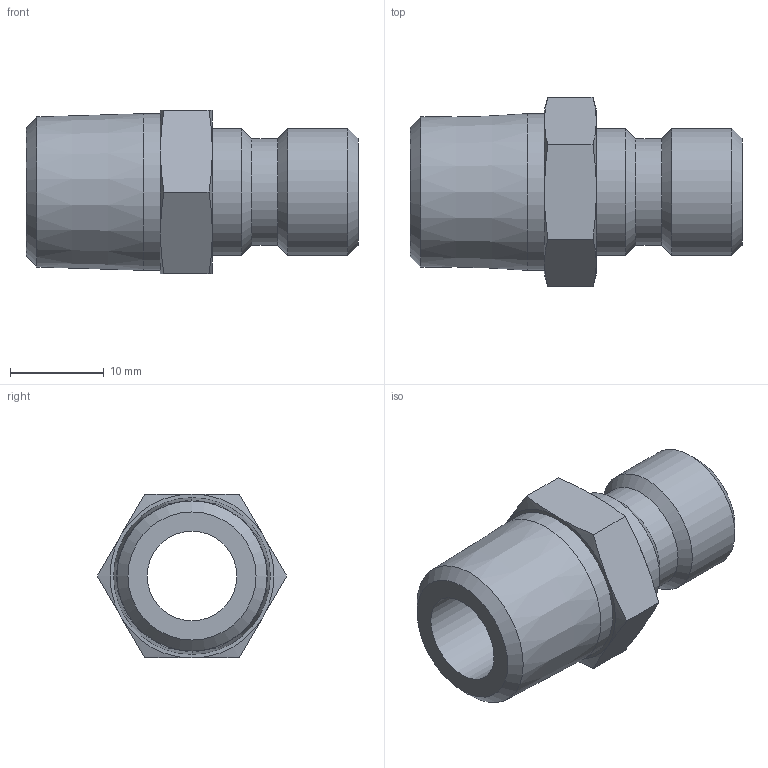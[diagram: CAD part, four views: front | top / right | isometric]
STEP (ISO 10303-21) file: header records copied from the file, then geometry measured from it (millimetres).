
FILE_DESCRIPTION(/* description */ ('STEP AP214'),/* implementation_level */ '2;1');
FILE_NAME(/* name */ 'JP-353',/* time_stamp */ '2024-12-19T08:35:14+01:00',/* author */ ('License CC BY-ND 4.0'),/* organization */ ('CADENAS'),/* preprocessor_version */ 'ST-DEVELOPER v19.3',/* originating_system */ 'PARTsolutions',/* authorisation */ ' ');
FILE_SCHEMA (('AUTOMOTIVE_DESIGN {1 0 10303 214 3 1 1}'));
Length unit declared in the file: inch
Products named in the file (1): JP-353
Bounding box: 35.33 x 20.15 x 17.45 mm (x, y, z)
Volume: 3938.4 mm3; surface area: 3081.9 mm2
Topology: 1 solids, 1 shells, 32 faces, 65 edges, 37 vertices
Faces by surface type: cone 17, plane 10, cylinder 5
Full cylindrical faces by diameter (mm): 9.525 x1, 11.351 x1, 13.513 x2, 16.675 x1
Entity records: 832 total; most frequent: CARTESIAN_POINT 197, DIRECTION 122, ORIENTED_EDGE 110, AXIS2_PLACEMENT_3D 58, EDGE_CURVE 55, EDGE_LOOP 46, FACE_BOUND 46, VERTEX_POINT 37
